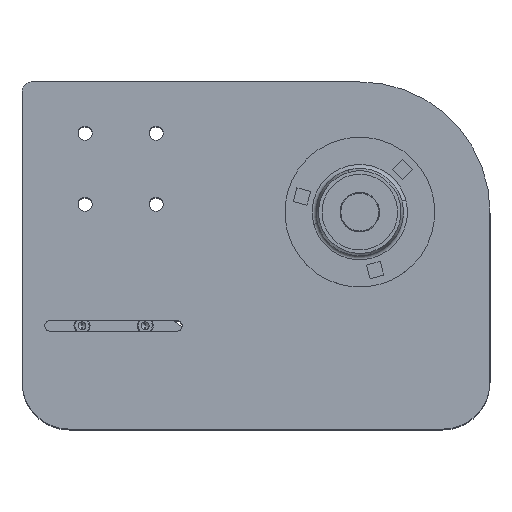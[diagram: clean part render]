
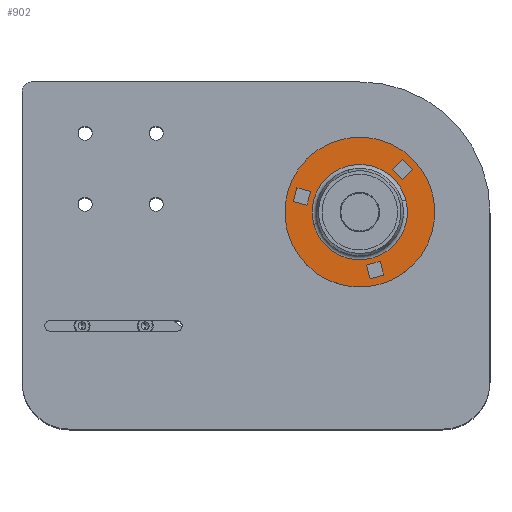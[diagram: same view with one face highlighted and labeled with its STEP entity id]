
A CAD part, top view. The second image highlights one B-rep face of the part: STEP entity #902.
In plain terms, the highlighted planar face has unit normal (0, 0, 1) as drawn and (-1, 0, 0) by its records, which use the part's own axes.
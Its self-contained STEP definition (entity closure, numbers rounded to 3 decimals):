
#884 = VERTEX_POINT ( 'NONE', #2513 ) ;
#885 = EDGE_CURVE ( 'NONE', #887, #898, #2562, .T. ) ;
#886 = ORIENTED_EDGE ( 'NONE', *, *, #885, .F. ) ;
#887 = VERTEX_POINT ( 'NONE', #2559 ) ;
#888 = ORIENTED_EDGE ( 'NONE', *, *, #889, .F. ) ;
#889 = EDGE_CURVE ( 'NONE', #884, #887, #2506, .T. ) ;
#890 = EDGE_CURVE ( 'NONE', #895, #909, #2555, .T. ) ;
#892 = EDGE_LOOP ( 'NONE', ( #897, #886, #888, #9644 ) ) ;
#893 = EDGE_CURVE ( 'NONE', #898, #899, #2544, .T. ) ;
#894 = ORIENTED_EDGE ( 'NONE', *, *, #896, .F. ) ;
#895 = VERTEX_POINT ( 'NONE', #2540 ) ;
#896 = EDGE_CURVE ( 'NONE', #912, #895, #2538, .T. ) ;
#897 = ORIENTED_EDGE ( 'NONE', *, *, #893, .F. ) ;
#898 = VERTEX_POINT ( 'NONE', #2563 ) ;
#899 = VERTEX_POINT ( 'NONE', #2545 ) ;
#900 = EDGE_CURVE ( 'NONE', #9256, #9260, #2539, .T. ) ;
#901 = EDGE_LOOP ( 'NONE', ( #904, #906, #907, #894 ) ) ;
#902 = ADVANCED_FACE ( 'NONE', ( #2550, #2601, #2605, #2604, #2596 ), #2551, .F. ) ;
#903 = EDGE_LOOP ( 'NONE', ( #908, #910 ) ) ;
#904 = ORIENTED_EDGE ( 'NONE', *, *, #913, .F. ) ;
#905 = EDGE_CURVE ( 'NONE', #909, #914, #2590, .T. ) ;
#906 = ORIENTED_EDGE ( 'NONE', *, *, #905, .F. ) ;
#907 = ORIENTED_EDGE ( 'NONE', *, *, #890, .F. ) ;
#908 = ORIENTED_EDGE ( 'NONE', *, *, #915, .T. ) ;
#909 = VERTEX_POINT ( 'NONE', #2594 ) ;
#910 = ORIENTED_EDGE ( 'NONE', *, *, #7582, .T. ) ;
#912 = VERTEX_POINT ( 'NONE', #2588 ) ;
#913 = EDGE_CURVE ( 'NONE', #914, #912, #2581, .T. ) ;
#914 = VERTEX_POINT ( 'NONE', #2587 ) ;
#915 = EDGE_CURVE ( 'NONE', #7527, #7544, #2583, .T. ) ;
#934 = ORIENTED_EDGE ( 'NONE', *, *, #900, .T. ) ;
#938 = ORIENTED_EDGE ( 'NONE', *, *, #9267, .T. ) ;
#1497 = DIRECTION ( 'NONE',  ( 0., 0., -1. ) ) ;
#2506 = LINE ( 'NONE', #2558, #2557 ) ;
#2513 = CARTESIAN_POINT ( 'NONE',  ( -2., 12.853, -31.262 ) ) ;
#2535 = DIRECTION ( 'NONE',  ( 0., -0.5, -0.866 ) ) ;
#2536 = VECTOR ( 'NONE', #2535, 1000. ) ;
#2537 = CARTESIAN_POINT ( 'NONE',  ( -2., 25.147, 34.556 ) ) ;
#2538 = LINE ( 'NONE', #2537, #2536 ) ;
#2539 = CIRCLE ( 'NONE', #2600, 47.5 ) ;
#2540 = CARTESIAN_POINT ( 'NONE',  ( -2., 20.647, 26.762 ) ) ;
#2541 = DIRECTION ( 'NONE',  ( 0., -0.866, -0.5 ) ) ;
#2542 = VECTOR ( 'NONE', #2541, 1000. ) ;
#2543 = CARTESIAN_POINT ( 'NONE',  ( -2., 25.147, -34.556 ) ) ;
#2544 = LINE ( 'NONE', #2543, #2542 ) ;
#2545 = CARTESIAN_POINT ( 'NONE',  ( -2., 17.353, -39.056 ) ) ;
#2550 = FACE_BOUND ( 'NONE', #903, .T. ) ;
#2551 = PLANE ( 'NONE',  #2593 ) ;
#2552 = DIRECTION ( 'NONE',  ( 0., -0.866, 0.5 ) ) ;
#2553 = VECTOR ( 'NONE', #2552, 1000. ) ;
#2554 = CARTESIAN_POINT ( 'NONE',  ( -2., 12.853, 31.262 ) ) ;
#2555 = LINE ( 'NONE', #2554, #2553 ) ;
#2556 = DIRECTION ( 'NONE',  ( 0., 0.866, 0.5 ) ) ;
#2557 = VECTOR ( 'NONE', #2556, 1000. ) ;
#2558 = CARTESIAN_POINT ( 'NONE',  ( -2., 20.647, -26.762 ) ) ;
#2559 = CARTESIAN_POINT ( 'NONE',  ( -2., 20.647, -26.762 ) ) ;
#2560 = DIRECTION ( 'NONE',  ( 0., 0.5, -0.866 ) ) ;
#2561 = VECTOR ( 'NONE', #2560, 1000. ) ;
#2562 = LINE ( 'NONE', #2569, #2561 ) ;
#2563 = CARTESIAN_POINT ( 'NONE',  ( -2., 25.147, -34.556 ) ) ;
#2569 = CARTESIAN_POINT ( 'NONE',  ( -2., 25.147, -34.556 ) ) ;
#2570 = DIRECTION ( 'NONE',  ( 1., 0., 0. ) ) ;
#2571 = CARTESIAN_POINT ( 'NONE',  ( -2., 0., 0. ) ) ;
#2578 = DIRECTION ( 'NONE',  ( 0., 0.866, -0.5 ) ) ;
#2579 = VECTOR ( 'NONE', #2578, 1000. ) ;
#2580 = CARTESIAN_POINT ( 'NONE',  ( -2., 17.353, 39.056 ) ) ;
#2581 = LINE ( 'NONE', #2580, #2579 ) ;
#2583 = CIRCLE ( 'NONE', #2595, 30.166 ) ;
#2584 = DIRECTION ( 'NONE',  ( 0., 0.5, 0.866 ) ) ;
#2585 = VECTOR ( 'NONE', #2584, 1000. ) ;
#2586 = CARTESIAN_POINT ( 'NONE',  ( -2., 17.353, 39.056 ) ) ;
#2587 = CARTESIAN_POINT ( 'NONE',  ( -2., 17.353, 39.056 ) ) ;
#2588 = CARTESIAN_POINT ( 'NONE',  ( -2., 25.147, 34.556 ) ) ;
#2589 = DIRECTION ( 'NONE',  ( 0., 0., -1. ) ) ;
#2590 = LINE ( 'NONE', #2586, #2585 ) ;
#2593 = AXIS2_PLACEMENT_3D ( 'NONE', #2603, #2602, #2589 ) ;
#2594 = CARTESIAN_POINT ( 'NONE',  ( -2., 12.853, 31.262 ) ) ;
#2595 = AXIS2_PLACEMENT_3D ( 'NONE', #2571, #2570, #1497 ) ;
#2596 = FACE_OUTER_BOUND ( 'NONE', #8591, .T. ) ;
#2597 = DIRECTION ( 'NONE',  ( 0., 0., 1. ) ) ;
#2598 = DIRECTION ( 'NONE',  ( -1., 0., 0. ) ) ;
#2599 = CARTESIAN_POINT ( 'NONE',  ( -2., 0., 0. ) ) ;
#2600 = AXIS2_PLACEMENT_3D ( 'NONE', #2599, #2598, #2597 ) ;
#2601 = FACE_BOUND ( 'NONE', #901, .T. ) ;
#2602 = DIRECTION ( 'NONE',  ( 1., 0., 0. ) ) ;
#2603 = CARTESIAN_POINT ( 'NONE',  ( -2., 47.5, 0. ) ) ;
#2604 = FACE_BOUND ( 'NONE', #8655, .T. ) ;
#2605 = FACE_BOUND ( 'NONE', #892, .T. ) ;
#3262 = CARTESIAN_POINT ( 'NONE',  ( -2., 0., -30.166 ) ) ;
#3306 = CARTESIAN_POINT ( 'NONE',  ( -2., 0., 30.166 ) ) ;
#3313 = CIRCLE ( 'NONE', #3358, 30.166 ) ;
#3314 = DIRECTION ( 'NONE',  ( 1., 0., 0. ) ) ;
#3357 = DIRECTION ( 'NONE',  ( 0., 0., -1. ) ) ;
#3358 = AXIS2_PLACEMENT_3D ( 'NONE', #3364, #3314, #3357 ) ;
#3364 = CARTESIAN_POINT ( 'NONE',  ( -2., 0., 0. ) ) ;
#4109 = CARTESIAN_POINT ( 'NONE',  ( -2., -42.5, 4.5 ) ) ;
#4110 = LINE ( 'NONE', #4109, #4904 ) ;
#4774 = CARTESIAN_POINT ( 'NONE',  ( -2., -42.5, 4.5 ) ) ;
#4795 = CARTESIAN_POINT ( 'NONE',  ( -2., -33.5, 4.5 ) ) ;
#4796 = CARTESIAN_POINT ( 'NONE',  ( -2., -42.5, -4.5 ) ) ;
#4797 = DIRECTION ( 'NONE',  ( 0., -1., 0. ) ) ;
#4798 = VECTOR ( 'NONE', #4797, 1000. ) ;
#4799 = CARTESIAN_POINT ( 'NONE',  ( -2., -42.5, -4.5 ) ) ;
#4800 = LINE ( 'NONE', #4799, #4798 ) ;
#4808 = CARTESIAN_POINT ( 'NONE',  ( -2., -33.5, -4.5 ) ) ;
#4846 = DIRECTION ( 'NONE',  ( 0., 1., 0. ) ) ;
#4904 = VECTOR ( 'NONE', #4846, 1000. ) ;
#4982 = DIRECTION ( 'NONE',  ( 0., 0., 1. ) ) ;
#4983 = VECTOR ( 'NONE', #4982, 1000. ) ;
#4984 = CARTESIAN_POINT ( 'NONE',  ( -2., -42.5, -4.5 ) ) ;
#4989 = LINE ( 'NONE', #4984, #4983 ) ;
#5185 = DIRECTION ( 'NONE',  ( 0., 0., -1. ) ) ;
#5186 = VECTOR ( 'NONE', #5185, 1000. ) ;
#5187 = CARTESIAN_POINT ( 'NONE',  ( -2., -33.5, -4.5 ) ) ;
#5188 = LINE ( 'NONE', #5187, #5186 ) ;
#5861 = CARTESIAN_POINT ( 'NONE',  ( -2., 0., 47.5 ) ) ;
#5862 = CARTESIAN_POINT ( 'NONE',  ( -2., 0., -47.5 ) ) ;
#5909 = DIRECTION ( 'NONE',  ( 0., 0., 1. ) ) ;
#5911 = DIRECTION ( 'NONE',  ( -1., 0., 0. ) ) ;
#5912 = AXIS2_PLACEMENT_3D ( 'NONE', #5918, #5911, #5909 ) ;
#5913 = CIRCLE ( 'NONE', #5912, 47.5 ) ;
#5918 = CARTESIAN_POINT ( 'NONE',  ( -2., 0., 0. ) ) ;
#6486 = DIRECTION ( 'NONE',  ( 0., -0.5, 0.866 ) ) ;
#6487 = VECTOR ( 'NONE', #6486, 1000. ) ;
#6488 = CARTESIAN_POINT ( 'NONE',  ( -2., 17.353, -39.056 ) ) ;
#6490 = LINE ( 'NONE', #6488, #6487 ) ;
#7527 = VERTEX_POINT ( 'NONE', #3262 ) ;
#7544 = VERTEX_POINT ( 'NONE', #3306 ) ;
#7582 = EDGE_CURVE ( 'NONE', #7544, #7527, #3313, .T. ) ;
#8565 = VERTEX_POINT ( 'NONE', #4774 ) ;
#8574 = EDGE_CURVE ( 'NONE', #8581, #8579, #4800, .T. ) ;
#8579 = VERTEX_POINT ( 'NONE', #4796 ) ;
#8580 = ORIENTED_EDGE ( 'NONE', *, *, #8574, .F. ) ;
#8581 = VERTEX_POINT ( 'NONE', #4808 ) ;
#8590 = ORIENTED_EDGE ( 'NONE', *, *, #8853, .F. ) ;
#8591 = EDGE_LOOP ( 'NONE', ( #938, #934 ) ) ;
#8593 = ORIENTED_EDGE ( 'NONE', *, *, #8850, .F. ) ;
#8594 = VERTEX_POINT ( 'NONE', #4795 ) ;
#8655 = EDGE_LOOP ( 'NONE', ( #8733, #8580, #8590, #8593 ) ) ;
#8725 = EDGE_CURVE ( 'NONE', #8579, #8565, #4989, .T. ) ;
#8733 = ORIENTED_EDGE ( 'NONE', *, *, #8725, .F. ) ;
#8850 = EDGE_CURVE ( 'NONE', #8565, #8594, #4110, .T. ) ;
#8853 = EDGE_CURVE ( 'NONE', #8594, #8581, #5188, .T. ) ;
#9256 = VERTEX_POINT ( 'NONE', #5862 ) ;
#9260 = VERTEX_POINT ( 'NONE', #5861 ) ;
#9267 = EDGE_CURVE ( 'NONE', #9260, #9256, #5913, .T. ) ;
#9614 = EDGE_CURVE ( 'NONE', #899, #884, #6490, .T. ) ;
#9644 = ORIENTED_EDGE ( 'NONE', *, *, #9614, .F. ) ;
